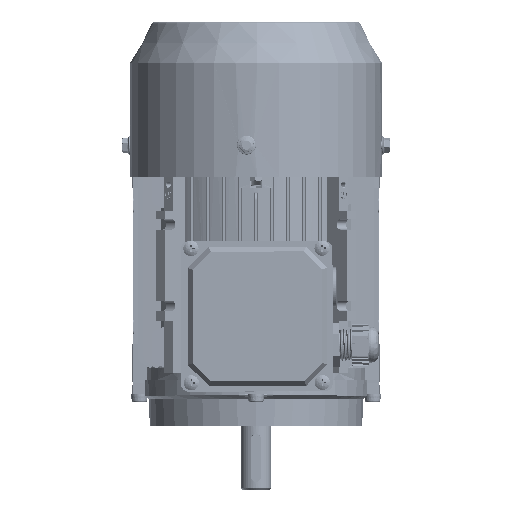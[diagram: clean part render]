
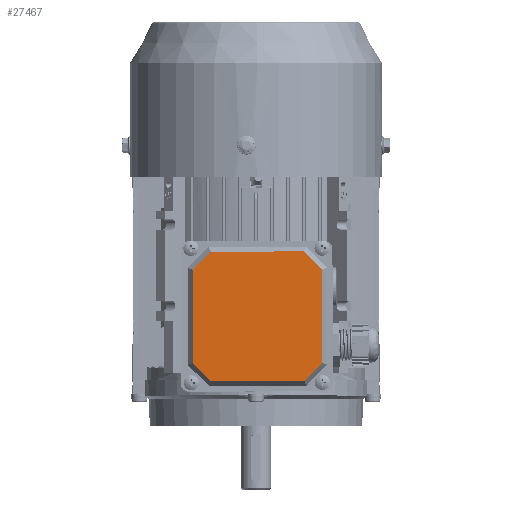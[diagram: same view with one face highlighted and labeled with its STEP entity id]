
A CAD part, top view. The second image highlights one B-rep face of the part: STEP entity #27467.
In plain terms, the highlighted planar face has unit normal (0, 0, 1) as drawn and (0, 1, 0) by its records, which use the part's own axes.
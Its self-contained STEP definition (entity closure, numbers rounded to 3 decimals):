
#1312 = VERTEX_POINT ( 'NONE', #85695 ) ;
#2034 = CARTESIAN_POINT ( 'NONE',  ( 0., 6., -40.5 ) ) ;
#6836 = EDGE_LOOP ( 'NONE', ( #14901, #19738, #128715, #92337, #52345, #144721, #76111, #114263 ) ) ;
#8585 = VERTEX_POINT ( 'NONE', #115060 ) ;
#10305 = LINE ( 'NONE', #64510, #13798 ) ;
#12778 = VECTOR ( 'NONE', #91407, 1000. ) ;
#13379 = EDGE_CURVE ( 'NONE', #14744, #95325, #91728, .T. ) ;
#13798 = VECTOR ( 'NONE', #142553, 1000. ) ;
#14292 = DIRECTION ( 'NONE',  ( -0.707, 0., -0.707 ) ) ;
#14744 = VERTEX_POINT ( 'NONE', #80947 ) ;
#14901 = ORIENTED_EDGE ( 'NONE', *, *, #121152, .T. ) ;
#19738 = ORIENTED_EDGE ( 'NONE', *, *, #38348, .T. ) ;
#27467 = ADVANCED_FACE ( 'NONE', ( #31422 ), #85494, .F. ) ;
#29886 = DIRECTION ( 'NONE',  ( 0., -1., 0. ) ) ;
#31229 = CARTESIAN_POINT ( 'NONE',  ( 29.15, 6., -40.5 ) ) ;
#31422 = FACE_OUTER_BOUND ( 'NONE', #6836, .T. ) ;
#37283 = CARTESIAN_POINT ( 'NONE',  ( 40.5, 6., 0. ) ) ;
#38348 = EDGE_CURVE ( 'NONE', #46049, #121404, #93658, .T. ) ;
#40685 = LINE ( 'NONE', #92434, #70300 ) ;
#42137 = CARTESIAN_POINT ( 'NONE',  ( -29.15, 6., 40.5 ) ) ;
#44105 = VERTEX_POINT ( 'NONE', #108313 ) ;
#46049 = VERTEX_POINT ( 'NONE', #48657 ) ;
#46637 = CARTESIAN_POINT ( 'NONE',  ( -34.825, 6., -34.825 ) ) ;
#48234 = VECTOR ( 'NONE', #138022, 1000. ) ;
#48657 = CARTESIAN_POINT ( 'NONE',  ( 40.5, 6., 29.15 ) ) ;
#52246 = EDGE_CURVE ( 'NONE', #121404, #107415, #40685, .T. ) ;
#52345 = ORIENTED_EDGE ( 'NONE', *, *, #108087, .T. ) ;
#56006 = VECTOR ( 'NONE', #124709, 1000. ) ;
#56921 = VECTOR ( 'NONE', #70909, 1000. ) ;
#57388 = AXIS2_PLACEMENT_3D ( 'NONE', #84982, #29886, #107924 ) ;
#59112 = LINE ( 'NONE', #66065, #118575 ) ;
#64510 = CARTESIAN_POINT ( 'NONE',  ( 0., 6., 40.5 ) ) ;
#65465 = VECTOR ( 'NONE', #144707, 1000. ) ;
#66065 = CARTESIAN_POINT ( 'NONE',  ( -40.5, 6., 0. ) ) ;
#66161 = EDGE_CURVE ( 'NONE', #107415, #8585, #72124, .T. ) ;
#66630 = CARTESIAN_POINT ( 'NONE',  ( -34.825, 6., 34.825 ) ) ;
#70300 = VECTOR ( 'NONE', #14292, 1000. ) ;
#70909 = DIRECTION ( 'NONE',  ( 0., 0., -1. ) ) ;
#72124 = LINE ( 'NONE', #2034, #12778 ) ;
#76111 = ORIENTED_EDGE ( 'NONE', *, *, #13379, .T. ) ;
#77314 = DIRECTION ( 'NONE',  ( 0., 0., 1. ) ) ;
#80947 = CARTESIAN_POINT ( 'NONE',  ( -40.5, 6., 29.15 ) ) ;
#84982 = CARTESIAN_POINT ( 'NONE',  ( 0., 6., 0. ) ) ;
#85494 = PLANE ( 'NONE',  #57388 ) ;
#85695 = CARTESIAN_POINT ( 'NONE',  ( 29.15, 6., 40.5 ) ) ;
#91407 = DIRECTION ( 'NONE',  ( -1., 0., 0. ) ) ;
#91728 = LINE ( 'NONE', #66630, #65465 ) ;
#92337 = ORIENTED_EDGE ( 'NONE', *, *, #66161, .T. ) ;
#92434 = CARTESIAN_POINT ( 'NONE',  ( 34.825, 6., -34.825 ) ) ;
#93658 = LINE ( 'NONE', #37283, #56921 ) ;
#95325 = VERTEX_POINT ( 'NONE', #42137 ) ;
#104411 = CARTESIAN_POINT ( 'NONE',  ( 34.825, 6., 34.825 ) ) ;
#107415 = VERTEX_POINT ( 'NONE', #31229 ) ;
#107625 = LINE ( 'NONE', #104411, #48234 ) ;
#107924 = DIRECTION ( 'NONE',  ( 0., 0., -1. ) ) ;
#108087 = EDGE_CURVE ( 'NONE', #8585, #44105, #111944, .T. ) ;
#108313 = CARTESIAN_POINT ( 'NONE',  ( -40.5, 6., -29.15 ) ) ;
#111944 = LINE ( 'NONE', #46637, #56006 ) ;
#114263 = ORIENTED_EDGE ( 'NONE', *, *, #134824, .T. ) ;
#115060 = CARTESIAN_POINT ( 'NONE',  ( -29.15, 6., -40.5 ) ) ;
#118575 = VECTOR ( 'NONE', #77314, 1000. ) ;
#119967 = CARTESIAN_POINT ( 'NONE',  ( 40.5, 6., -29.15 ) ) ;
#121152 = EDGE_CURVE ( 'NONE', #1312, #46049, #107625, .T. ) ;
#121404 = VERTEX_POINT ( 'NONE', #119967 ) ;
#124709 = DIRECTION ( 'NONE',  ( -0.707, 0., 0.707 ) ) ;
#128715 = ORIENTED_EDGE ( 'NONE', *, *, #52246, .T. ) ;
#129476 = EDGE_CURVE ( 'NONE', #44105, #14744, #59112, .T. ) ;
#134824 = EDGE_CURVE ( 'NONE', #95325, #1312, #10305, .T. ) ;
#138022 = DIRECTION ( 'NONE',  ( 0.707, 0., -0.707 ) ) ;
#142553 = DIRECTION ( 'NONE',  ( 1., 0., 0. ) ) ;
#144707 = DIRECTION ( 'NONE',  ( 0.707, 0., 0.707 ) ) ;
#144721 = ORIENTED_EDGE ( 'NONE', *, *, #129476, .T. ) ;
